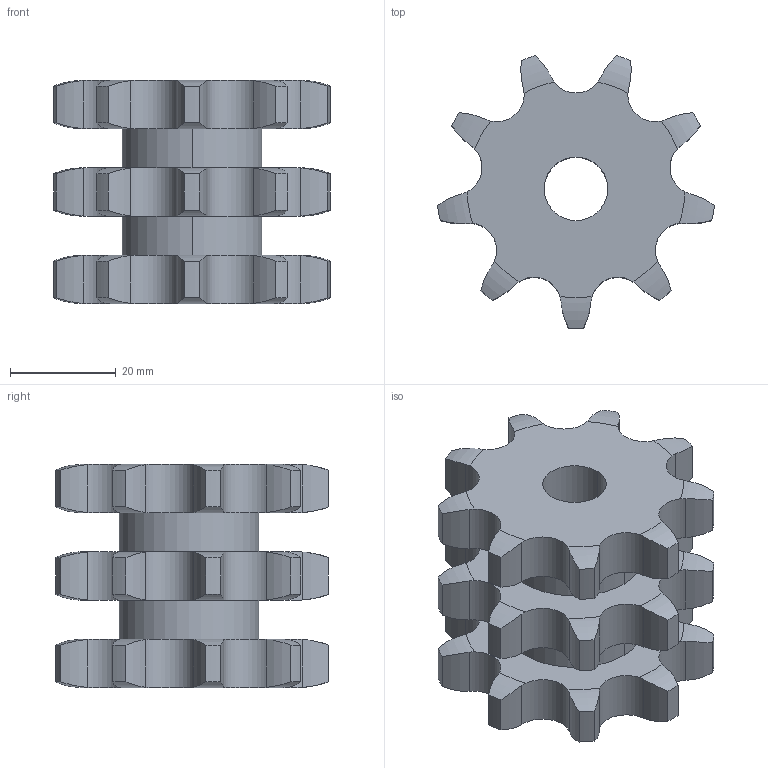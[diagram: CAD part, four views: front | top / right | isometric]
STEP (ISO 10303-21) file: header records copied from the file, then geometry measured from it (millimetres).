
FILE_DESCRIPTION((''),'2;1');
FILE_NAME('500-303-0009_PRT','2021-02-12T',('Brieden'),('Brieden'),'PRO/ENGINEER BY PARAMETRIC TECHNOLOGY CORPORATION, 2010160','PRO/ENGINEER BY PARAMETRIC TECHNOLOGY CORPORATION, 2010160','');
FILE_SCHEMA(('AUTOMOTIVE_DESIGN { 1 0 10303 214 1 1 1 1 }'));
Length unit declared in the file: millimetre
Products named in the file (1): 500-303-0009_PRT
Bounding box: 52.22 x 51.46 x 42.1 mm (x, y, z)
Volume: 42465.3 mm3; surface area: 14792.5 mm2
Topology: 1 solids, 1 shells, 174 faces, 504 edges, 336 vertices
Faces by surface type: cylinder 114, torus 54, plane 6
Entity records: 8002 total; most frequent: CARTESIAN_POINT 2083, ORIENTED_EDGE 1008, DIRECTION 810, PRESENTATION_STYLE_ASSIGNMENT 505, STYLED_ITEM 505, CURVE_STYLE 504, EDGE_CURVE 504, AXIS2_PLACEMENT_3D 348
